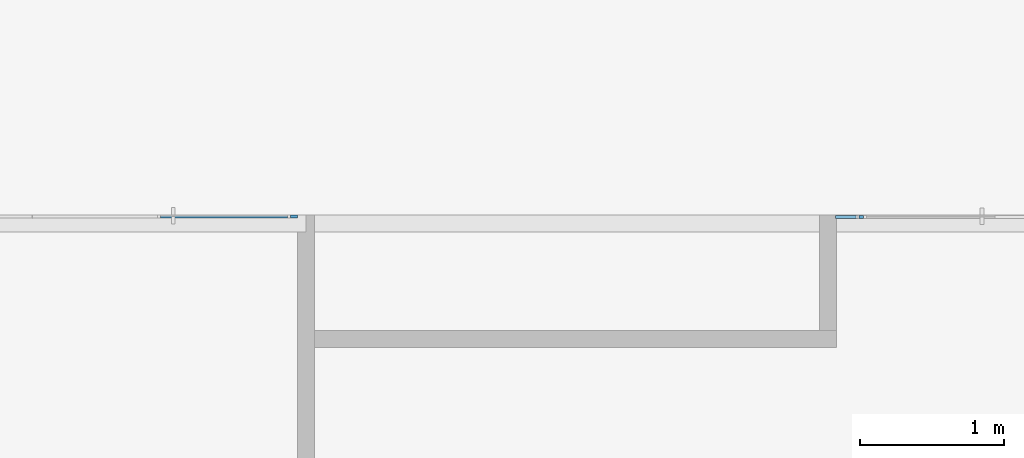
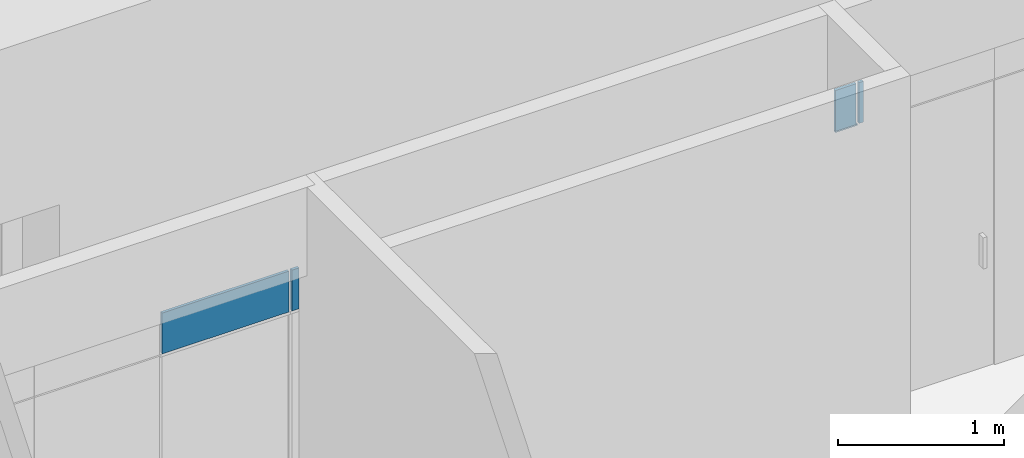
# One storey, part 31 of 66: 5 plates, 2 elements without a shape of their own.
"""IFC2X3 building model written with IfcOpenShell, lengths in millimetres."""

from ifc_helpers import new_model, entity, si_unit, converted_unit, derived_unit, direction, frame, origin, origin_2d_with_axis, place, context, subcontext, project, spatial, rectangle, extrude, source, transform, mapped, material, layer, layer_set, layer_usage, type_object, type_shapes, element, aggregate, save


model = new_model("IFC2X3")

# Units and contexts
model_context = context("Model", 3, precision=0.01, world=origin(), true_north=direction((6.12303176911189e-17, 1.0)))
body_context = subcontext(model_context, "Body", "Model", "MODEL_VIEW")
ifc_project = project(units=[si_unit("LENGTHUNIT", "METRE", prefix="MILLI"), si_unit("AREAUNIT", "SQUARE_METRE"), si_unit("VOLUMEUNIT", "CUBIC_METRE"), converted_unit("PLANEANGLEUNIT", "DEGREE", entity("IfcRatioMeasure", 0.0174532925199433), si_unit("PLANEANGLEUNIT", "RADIAN"), dimensions=[0, 0, 0, 0, 0, 0, 0]), si_unit("MASSUNIT", "GRAM", prefix="KILO"), derived_unit("MASSDENSITYUNIT", [(si_unit("MASSUNIT", "GRAM", prefix="KILO"), 1), (si_unit("LENGTHUNIT", "METRE"), -3)]), si_unit("TIMEUNIT", "SECOND"), si_unit("FREQUENCYUNIT", "HERTZ"), si_unit("THERMODYNAMICTEMPERATUREUNIT", "DEGREE_CELSIUS"), derived_unit("THERMALTRANSMITTANCEUNIT", [(si_unit("MASSUNIT", "GRAM", prefix="KILO"), 1), (si_unit("THERMODYNAMICTEMPERATUREUNIT", "KELVIN"), -1), (si_unit("TIMEUNIT", "SECOND"), -3)]), derived_unit("VOLUMETRICFLOWRATEUNIT", [(si_unit("LENGTHUNIT", "METRE"), 3), (si_unit("TIMEUNIT", "SECOND"), -1)]), si_unit("ELECTRICCURRENTUNIT", "AMPERE"), si_unit("ELECTRICVOLTAGEUNIT", "VOLT"), si_unit("POWERUNIT", "WATT"), si_unit("FORCEUNIT", "NEWTON", prefix="KILO"), si_unit("ILLUMINANCEUNIT", "LUX"), si_unit("LUMINOUSFLUXUNIT", "LUMEN"), si_unit("LUMINOUSINTENSITYUNIT", "CANDELA"), derived_unit("USERDEFINED", [(si_unit("MASSUNIT", "GRAM", prefix="KILO"), -1), (si_unit("LENGTHUNIT", "METRE"), -2), (si_unit("TIMEUNIT", "SECOND"), 3), (si_unit("LUMINOUSFLUXUNIT", "LUMEN"), 1)]), derived_unit("LINEARVELOCITYUNIT", [(si_unit("LENGTHUNIT", "METRE"), 1), (si_unit("TIMEUNIT", "SECOND"), -1)]), si_unit("PRESSUREUNIT", "PASCAL"), derived_unit("USERDEFINED", [(si_unit("LENGTHUNIT", "METRE"), -2), (si_unit("MASSUNIT", "GRAM", prefix="KILO"), 1), (si_unit("TIMEUNIT", "SECOND"), -2)])], contexts=[model_context])

# Site, building, storey
site_placement = place(None, frame((-151.875543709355, 2715.0, 0.0)))
site = spatial("IfcSite", under=ifc_project, at=site_placement, Name="Surface", CompositionType="ELEMENT")
building_placement = place(site_placement, origin())
building = spatial("IfcBuilding", under=site, at=building_placement, CompositionType="ELEMENT")
storey_placement = place(building_placement, frame((0.0, 0.0, 3350.0)))
storey = spatial("IfcBuildingStorey", under=building, at=storey_placement, Name="2 korrus", CompositionType="ELEMENT", Elevation=3350.00000000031)

# Curtain wall, plates
curtain_wall_type_1 = type_object("IfcCurtainWallType", Name="Curtain Wall:Klaassein KLS-09", PredefinedType="NOTDEFINED")
curtain_wall_1_placement = place(storey_placement, frame((0.0, 0.0, -3350.0)))
curtain_wall_1 = element("IfcCurtainWall", 1, at=curtain_wall_1_placement, inside=storey, type_object=curtain_wall_type_1, Name="Curtain Wall:Klaassein KLS-09", ObjectType="Curtain Wall:Klaassein KLS-09")
ifc_material = material(Name="<Unnamed>")
ifc_layer = layer(ifc_material, 20.0)
ifc_layer_set = layer_set([ifc_layer], Name="Curtain Wall:Klaassein KLS-01")
ifc_layer_usage_1 = layer_usage(ifc_layer_set, "AXIS3", "POSITIVE", 0.0)
plate_type_1 = type_object("IfcPlateType", Name="Glazed", PredefinedType="CURTAIN_PANEL", material=ifc_layer_set)
shared_shape_1 = source(origin(), body_context, "Body", "SweptSolid", [
    extrude(rectangle(XDim=20.0, YDim=153.990561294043, at=origin_2d_with_axis()), frame((0.0, 0.0, 0.0), z_axis=(0.0, 0.0, 1.0), x_axis=(0.0, 1.0, 0.0)), (0.0, 0.0, 1.0), 9.99999999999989),
])
type_shapes(plate_type_1, [shared_shape_1])
plate_1_placement = place(curtain_wall_1_placement, frame((13301.560007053, 4352.04493399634, 5440.0)))
plate_1 = element("IfcPlate", 2, at=plate_1_placement, type_object=plate_type_1, material=ifc_layer_usage_1, Name="System Panel:Glazed", ObjectType="Glazed", context=body_context, shape_type="MappedRepresentation", body=[
    mapped(shared_shape_1, transform((0.0, 0.0, 0.0), scale=1.0)),
])
ifc_layer_usage_2 = layer_usage(ifc_layer_set, "AXIS3", "POSITIVE", 0.0)
plate_type_2 = type_object("IfcPlateType", Name="Glazed", PredefinedType="CURTAIN_PANEL", material=ifc_layer_set)
shared_shape_2 = source(origin(), body_context, "Body", "SweptSolid", [
    extrude(rectangle(XDim=20.0, YDim=143.990561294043, at=origin_2d_with_axis()), frame((0.0, 0.0, 0.0), z_axis=(0.0, 0.0, 1.0), x_axis=(0.0, 1.0, 0.0)), (0.0, 0.0, 1.0), 299.999999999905),
])
type_shapes(plate_type_2, [shared_shape_2])
plate_2_placement = place(curtain_wall_1_placement, frame((13296.560007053, 4352.04493399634, 5450.0)))
plate_2 = element("IfcPlate", 3, at=plate_2_placement, type_object=plate_type_2, material=ifc_layer_usage_2, Name="System Panel:Glazed", ObjectType="Glazed", context=body_context, shape_type="MappedRepresentation", body=[
    mapped(shared_shape_2, transform((0.0, 0.0, 0.0), scale=1.0)),
])
ifc_layer_usage_3 = layer_usage(ifc_layer_set, "AXIS3", "POSITIVE", 0.0)
plate_type_3 = type_object("IfcPlateType", Name="Glazed", PredefinedType="CURTAIN_PANEL", material=ifc_layer_set)
shared_shape_3 = source(origin(), body_context, "Body", "SweptSolid", [
    extrude(rectangle(XDim=20.0, YDim=29.9999999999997, at=origin_2d_with_axis()), frame((0.0, 0.0, 0.0), z_axis=(0.0, 0.0, 1.0), x_axis=(0.0, 1.0, 0.0)), (0.0, 0.0, 1.0), 299.999999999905),
])
type_shapes(plate_type_3, [shared_shape_3])
plate_3_placement = place(curtain_wall_1_placement, frame((13403.5552877, 4352.04493399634, 5450.0)))
plate_3 = element("IfcPlate", 4, at=plate_3_placement, type_object=plate_type_3, material=ifc_layer_usage_3, Name="System Panel:Glazed", ObjectType="Glazed", context=body_context, shape_type="MappedRepresentation", body=[
    mapped(shared_shape_3, transform((0.0, 0.0, 0.0), scale=1.0)),
])
aggregate(curtain_wall_1, [plate_1, plate_2, plate_3])

curtain_wall_type_2 = type_object("IfcCurtainWallType", Name="Curtain Wall:Klaassein KLS-08", PredefinedType="NOTDEFINED")
curtain_wall_2_placement = place(storey_placement, frame((0.0, 0.0, -3350.0)))
curtain_wall_2 = element("IfcCurtainWall", 5, at=curtain_wall_2_placement, inside=storey, type_object=curtain_wall_type_2, Name="Curtain Wall:Klaassein KLS-08", ObjectType="Curtain Wall:Klaassein KLS-08")
ifc_layer_usage_4 = layer_usage(ifc_layer_set, "AXIS3", "POSITIVE", 0.0)
plate_type_4 = type_object("IfcPlateType", Name="Glazed", PredefinedType="CURTAIN_PANEL", material=ifc_layer_set)
shared_shape_4 = source(origin(), body_context, "Body", "SweptSolid", [
    extrude(rectangle(XDim=20.0, YDim=879.999999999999, at=origin_2d_with_axis()), frame((0.0, 0.0, 0.0), z_axis=(0.0, 0.0, 1.0), x_axis=(0.0, 1.0, 0.0)), (0.0, 0.0, 1.0), 299.999999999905),
])
type_shapes(plate_type_4, [shared_shape_4])
plate_4_placement = place(curtain_wall_2_placement, frame((8989.56472640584, 4355.04493399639, 5450.0)))
plate_4 = element("IfcPlate", 6, at=plate_4_placement, type_object=plate_type_4, material=ifc_layer_usage_4, Name="System Panel:Glazed", ObjectType="Glazed", context=body_context, shape_type="MappedRepresentation", body=[
    mapped(shared_shape_4, transform((0.0, 0.0, 0.0), scale=1.0)),
])
ifc_layer_usage_5 = layer_usage(ifc_layer_set, "AXIS3", "POSITIVE", 0.0)
plate_type_5 = type_object("IfcPlateType", Name="Glazed", PredefinedType="CURTAIN_PANEL", material=ifc_layer_set)
shared_shape_5 = source(origin(), body_context, "Body", "SweptSolid", [
    extrude(rectangle(XDim=20.0, YDim=50.0000000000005, at=origin_2d_with_axis()), frame((0.0, 0.0, 0.0), z_axis=(0.0, 0.0, 1.0), x_axis=(0.0, 1.0, 0.0)), (0.0, 0.0, 1.0), 299.999999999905),
])
type_shapes(plate_type_5, [shared_shape_5])
plate_5_placement = place(curtain_wall_2_placement, frame((9474.56472640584, 4355.0449339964, 5450.0)))
plate_5 = element("IfcPlate", 7, at=plate_5_placement, type_object=plate_type_5, material=ifc_layer_usage_5, Name="System Panel:Glazed", ObjectType="Glazed", context=body_context, shape_type="MappedRepresentation", body=[
    mapped(shared_shape_5, transform((0.0, 0.0, 0.0), scale=1.0)),
])
aggregate(curtain_wall_2, [plate_4, plate_5])

save(model, "model.ifc")
